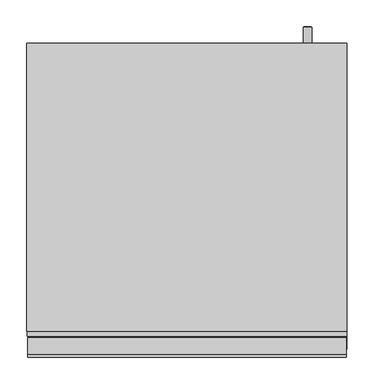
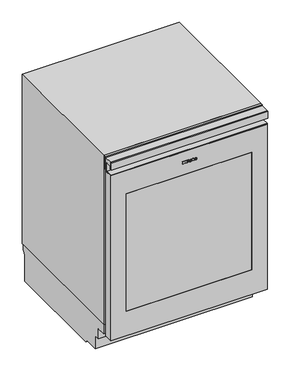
"""IFC4 building model written with IfcOpenShell, lengths in millimetres: proxy geometry, 12731310_GB_KWTUS7074F_OBSW : 39707410_GB_12731310_KWTUS7074F_OBSW."""

from ifc_helpers import new_model, si_unit, point, frame, frame_2d, origin, origin_with_axes, place, context, project, spatial, polyline, circle_curve, ellipse_curve, trimmed, segment, composite_curve, outline, extrude, faceted_brep, source, transform, mapped, element, save
from ifc_brep_helpers import plane_surface, cylinder_surface, revolved_surface, extruded_surface, advanced_brep


def specialty_equipment_66d890f0(model_context):
    return source(origin(), model_context, "Body", "SolidModel", [
        extrude(outline(polyline([(722.339, -25.038), (722.339, -23.949), (716.318, -23.949), (716.318, -25.038), (714.806, -25.038), (714.806, -21.078), (716.318, -21.078), (716.318, -22.158), (720.1401247, -22.158), (714.806, -18.135), (720.2462223, -14.094), (716.318, -14.094), (716.318, -15.201), (714.806, -15.201), (714.806, -8.019), (716.318, -8.019), (716.318, -9.162), (722.339, -9.162), (722.339, -8.019), (723.806, -8.019), (723.806, -13.5), (720.431, -16.128), (723.806, -18.765), (723.806, -25.038), (722.339, -25.038)])), frame((0.0, -1.0, 0.0), z_axis=(0.0, 1.0, 0.0), x_axis=(0.0, 0.0, 1.0)), (0.0, 0.0, 1.0), 1.0),
        extrude(outline(polyline([(722.339, 11.484), (722.339, 12.564), (716.318, 12.564), (716.318, 11.484), (714.806, 11.484), (714.806, 18.783), (716.318, 18.783), (716.318, 17.676), (723.806, 17.676), (723.806, 11.484), (722.339, 11.484)])), frame((0.0, -1.0, 0.0), z_axis=(0.0, 1.0, 0.0), x_axis=(0.0, 0.0, 1.0)), (0.0, 0.0, 1.0), 1.0),
        extrude(outline(polyline([(723.275, -4.878), (721.817, -4.194), (723.239, -1.143), (724.697, -1.818), (723.275, -4.878)])), frame((0.0, -1.0, 0.0), z_axis=(0.0, 1.0, 0.0), x_axis=(0.0, 0.0, 1.0)), (0.0, 0.0, 1.0), 1.0),
        extrude(outline(polyline([(721.619, -7.101), (720.008, -7.101), (720.008, -6.03), (716.318, -6.03), (716.318, -7.101), (714.806, -7.101), (714.806, 0.0), (716.318, 0.0), (716.318, -1.044), (721.619, -1.044), (721.619, -7.101)])), frame((0.0, -1.0, 0.0), z_axis=(0.0, 1.0, 0.0), x_axis=(0.0, 0.0, 1.0)), (0.0, 0.0, 1.0), 1.0),
        advanced_brep(
        [(4.959, -1.0, 716.939), (4.959, -1.0, 717.848), (10.98, -1.0, 717.848), (0.504, -1.0, 717.848), (2.979, -1.0, 714.806), (10.827, -1.0, 716.939), (8.109, -1.0, 716.939), (5.967, -1.0, 715.931), (4.959, -1.0, 719.0), (4.959, -1.0, 719.981), (6.498, -1.0, 719.981), (6.498, -1.0, 719.0), (4.959, 0.0, 716.939), (5.967, 0.0, 715.931), (8.109, 0.0, 716.939), (10.827, 0.0, 716.939), (2.979, 0.0, 714.806), (0.504, 0.0, 717.848), (10.98, 0.0, 717.848), (4.959, 0.0, 717.848), (4.959, 0.0, 719.0), (6.498, 0.0, 719.0), (6.498, 0.0, 719.981), (4.959, 0.0, 719.981)],
        [
            (0, 1),
            (1, 2),
            (2, 3, ellipse_curve(frame((5.742, -1.0, 717.848), z_axis=(0.0, -1.0, 0.0), x_axis=(-1.0, 0.0, 0.0)), 5.238, 4.329)),
            (3, 4, circle_curve(frame((3.9870491, -1.0, 718.154), z_axis=(0.0, -1.0, 0.0), x_axis=(0.0, 0.0, -1.0)), 3.4964649)),
            (4, 5, circle_curve(frame((5.6371428, -1.0, 720.53), z_axis=(0.0, -1.0, 0.0), x_axis=(0.0, 0.0, -1.0)), 6.3110933)),
            (5, 6),
            (6, 7, circle_curve(frame((6.4069412, -1.0, 717.776), z_axis=(0.0, 1.0, 0.0), x_axis=(0.0, 0.0, -1.0)), 1.896727)),
            (7, 0, circle_curve(frame((5.967, -1.0, 716.939), z_axis=(0.0, 1.0, 0.0), x_axis=(0.0, 0.0, -1.0)), 1.008)),
            (8, 9),
            (9, 10, circle_curve(frame((5.7285, -1.0, 719.981), z_axis=(0.0, 1.0, 0.0), x_axis=(0.0, 0.0, -1.0)), 0.7695)),
            (10, 11),
            (11, 8),
            (12, 13, circle_curve(frame((5.967, 0.0, 716.939), z_axis=(0.0, -1.0, 0.0), x_axis=(0.0, 0.0, -1.0)), 1.008)),
            (13, 14, circle_curve(frame((6.4069412, 0.0, 717.776), z_axis=(0.0, -1.0, 0.0), x_axis=(0.0, 0.0, -1.0)), 1.896727)),
            (14, 15),
            (15, 16, circle_curve(frame((5.6371428, 0.0, 720.53), z_axis=(0.0, 1.0, 0.0), x_axis=(0.0, 0.0, -1.0)), 6.3110933)),
            (16, 17, circle_curve(frame((3.9870491, 0.0, 718.154), z_axis=(0.0, 1.0, 0.0), x_axis=(0.0, 0.0, -1.0)), 3.4964649)),
            (17, 18, ellipse_curve(frame((5.742, 0.0, 717.848), z_axis=(0.0, 1.0, 0.0), x_axis=(-1.0, 0.0, 0.0)), 5.238, 4.329)),
            (18, 19),
            (19, 12),
            (20, 21),
            (21, 22),
            (22, 23, circle_curve(frame((5.7285, 0.0, 719.981), z_axis=(0.0, -1.0, 0.0), x_axis=(0.0, 0.0, -1.0)), 0.7695)),
            (23, 20),
            (0, 12),
            (19, 1),
            (18, 2),
            (5, 15),
            (14, 6),
            (17, 3),
            (13, 7),
            (16, 4),
            (8, 20),
            (23, 9),
            (22, 10),
            (21, 11),
        ],
        [
            plane_surface(frame((4.959, -1.0, 717.848), z_axis=(0.0, -1.0, 0.0), x_axis=(0.0, 0.0, 1.0))),
            plane_surface(frame((4.959, 0.0, 717.848), z_axis=(0.0, 1.0, 0.0), x_axis=(0.0, 0.0, -1.0))),
            plane_surface(frame((4.959, -1.0, 716.939), z_axis=(1.0, 0.0, 0.0), x_axis=(0.0, 1.0, 0.0))),
            plane_surface(frame((4.959, -1.0, 717.848), z_axis=(0.0, 0.0, -1.0), x_axis=(0.0, 1.0, 0.0))),
            plane_surface(frame((10.827, -1.0, 716.939), z_axis=(0.0, 0.0, 1.0), x_axis=(0.0, 1.0, 0.0))),
            extruded_surface(trimmed(ellipse_curve(frame((5.742, 1.0, 717.848), z_axis=(0.0, -1.0, 0.0), x_axis=(-1.0, 0.0, 0.0)), 5.238, 4.329), [point((10.98, 1.0, 717.848))], [point((0.504, 1.0, 717.848))], True, "CARTESIAN"), (0.0, -1.0, 0.0), 1.0),
            revolved_surface(polyline([(6.4069412, 0.0, 715.8792729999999), (6.4069412, -1.0, 715.8792729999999)]), (6.4069412, 0.0, 717.776), (0.0, 1.0, 0.0)),
            revolved_surface(polyline([(5.967, 0.0, 715.9309999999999), (5.967, -1.0, 715.9309999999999)]), (5.967, 0.0, 716.939), (0.0, 1.0, 0.0)),
            cylinder_surface(frame((3.9870491, 0.0, 718.154), z_axis=(0.0, -1.0, 0.0), x_axis=(0.0, 0.0, -1.0)), 3.4964649),
            cylinder_surface(frame((5.6371428, 0.0, 720.53), z_axis=(0.0, -1.0, 0.0), x_axis=(0.0, 0.0, -1.0)), 6.3110933),
            plane_surface(frame((4.959, -1.0, 719.0), z_axis=(1.0, 0.0, 0.0), x_axis=(0.0, 1.0, 0.0))),
            revolved_surface(polyline([(5.7285, 0.0, 719.2115), (5.7285, -1.0, 719.2115)]), (5.7285, 0.0, 719.981), (0.0, 1.0, 0.0)),
            plane_surface(frame((6.498, -1.0, 719.981), z_axis=(-1.0, 0.0, 0.0), x_axis=(0.0, 1.0, 0.0))),
            plane_surface(frame((6.498, -1.0, 719.0), z_axis=(0.0, 0.0, 1.0), x_axis=(0.0, 1.0, 0.0))),
        ],
        [
            (0, [[1, 2, 3, 4, 5, 6, 7, 8], [9, 10, 11, 12]]),
            (1, [[13, 14, 15, 16, 17, 18, 19, 20], [21, 22, 23, 24]]),
            (2, [[-1, 25, -20, 26]]),
            (3, [[-2, -26, -19, 27]]),
            (4, [[-6, 28, -15, 29]]),
            (5, [[-3, -27, -18, 30]]),
            (6, [[-7, -29, -14, 31]]),
            (7, [[-8, -31, -13, -25]]),
            (8, [[-4, -30, -17, 32]]),
            (9, [[-5, -32, -16, -28]]),
            (10, [[-9, 33, -24, 34]]),
            (11, [[-10, -34, -23, 35]]),
            (12, [[-11, -35, -22, 36]]),
            (13, [[-12, -36, -21, -33]]),
        ],
    ),
        advanced_brep(
        [(23.742, -1.0, 716.939), (23.742, -1.0, 717.848), (29.763, -1.0, 717.848), (19.287, -1.0, 717.848), (21.762, -1.0, 714.806), (29.61, -1.0, 716.939), (26.892, -1.0, 716.939), (24.75, -1.0, 715.931), (23.742, -1.0, 719.0), (23.742, -1.0, 719.981), (25.281, -1.0, 719.981), (25.281, -1.0, 719.0), (23.742, 0.0, 716.939), (24.75, 0.0, 715.931), (26.892, 0.0, 716.939), (29.61, 0.0, 716.939), (21.762, 0.0, 714.806), (19.287, 0.0, 717.848), (29.763, 0.0, 717.848), (23.742, 0.0, 717.848), (23.742, 0.0, 719.0), (25.281, 0.0, 719.0), (25.281, 0.0, 719.981), (23.742, 0.0, 719.981)],
        [
            (0, 1),
            (1, 2),
            (2, 3, ellipse_curve(frame((24.525, -1.0, 717.848), z_axis=(0.0, -1.0, 0.0), x_axis=(-1.0, 0.0, 0.0)), 5.238, 4.329)),
            (3, 4, circle_curve(frame((22.7700491, -1.0, 718.154), z_axis=(0.0, -1.0, 0.0), x_axis=(0.0, 0.0, -1.0)), 3.4964649)),
            (4, 5, circle_curve(frame((24.4201428, -1.0, 720.53), z_axis=(0.0, -1.0, 0.0), x_axis=(0.0, 0.0, -1.0)), 6.3110933)),
            (5, 6),
            (6, 7, circle_curve(frame((25.1899412, -1.0, 717.776), z_axis=(0.0, 1.0, 0.0), x_axis=(0.0, 0.0, -1.0)), 1.896727)),
            (7, 0, circle_curve(frame((24.75, -1.0, 716.939), z_axis=(0.0, 1.0, 0.0), x_axis=(0.0, 0.0, -1.0)), 1.008)),
            (8, 9),
            (9, 10, circle_curve(frame((24.5115, -1.0, 719.981), z_axis=(0.0, 1.0, 0.0), x_axis=(0.0, 0.0, -1.0)), 0.7695)),
            (10, 11),
            (11, 8),
            (12, 13, circle_curve(frame((24.75, 0.0, 716.939), z_axis=(0.0, -1.0, 0.0), x_axis=(0.0, 0.0, -1.0)), 1.008)),
            (13, 14, circle_curve(frame((25.1899412, 0.0, 717.776), z_axis=(0.0, -1.0, 0.0), x_axis=(0.0, 0.0, -1.0)), 1.896727)),
            (14, 15),
            (15, 16, circle_curve(frame((24.4201428, 0.0, 720.53), z_axis=(0.0, 1.0, 0.0), x_axis=(0.0, 0.0, -1.0)), 6.3110933)),
            (16, 17, circle_curve(frame((22.7700491, 0.0, 718.154), z_axis=(0.0, 1.0, 0.0), x_axis=(0.0, 0.0, -1.0)), 3.4964649)),
            (17, 18, ellipse_curve(frame((24.525, 0.0, 717.848), z_axis=(0.0, 1.0, 0.0), x_axis=(-1.0, 0.0, 0.0)), 5.238, 4.329)),
            (18, 19),
            (19, 12),
            (20, 21),
            (21, 22),
            (22, 23, circle_curve(frame((24.5115, 0.0, 719.981), z_axis=(0.0, -1.0, 0.0), x_axis=(0.0, 0.0, -1.0)), 0.7695)),
            (23, 20),
            (0, 12),
            (19, 1),
            (18, 2),
            (5, 15),
            (14, 6),
            (17, 3),
            (13, 7),
            (16, 4),
            (8, 20),
            (23, 9),
            (22, 10),
            (21, 11),
        ],
        [
            plane_surface(frame((23.742, -1.0, 717.848), z_axis=(0.0, -1.0, 0.0), x_axis=(0.0, 0.0, 1.0))),
            plane_surface(frame((23.742, 0.0, 717.848), z_axis=(0.0, 1.0, 0.0), x_axis=(0.0, 0.0, -1.0))),
            plane_surface(frame((23.742, -1.0, 716.939), z_axis=(1.0, 0.0, 0.0), x_axis=(0.0, 1.0, 0.0))),
            plane_surface(frame((23.742, -1.0, 717.848), z_axis=(0.0, 0.0, -1.0), x_axis=(0.0, 1.0, 0.0))),
            plane_surface(frame((29.61, -1.0, 716.939), z_axis=(0.0, 0.0, 1.0), x_axis=(0.0, 1.0, 0.0))),
            extruded_surface(trimmed(ellipse_curve(frame((24.525, 1.0, 717.848), z_axis=(0.0, -1.0, 0.0), x_axis=(-1.0, 0.0, 0.0)), 5.238, 4.329), [point((29.763, 1.0, 717.848))], [point((19.287, 1.0, 717.848))], True, "CARTESIAN"), (0.0, -1.0, 0.0), 1.0),
            revolved_surface(polyline([(25.1899412, 0.0, 715.8792729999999), (25.1899412, -1.0, 715.8792729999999)]), (25.1899412, 0.0, 717.776), (0.0, 1.0, 0.0)),
            revolved_surface(polyline([(24.75, 0.0, 715.9309999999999), (24.75, -1.0, 715.9309999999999)]), (24.75, 0.0, 716.939), (0.0, 1.0, 0.0)),
            cylinder_surface(frame((22.7700491, 0.0, 718.154), z_axis=(0.0, -1.0, 0.0), x_axis=(0.0, 0.0, -1.0)), 3.4964649),
            cylinder_surface(frame((24.4201428, 0.0, 720.53), z_axis=(0.0, -1.0, 0.0), x_axis=(0.0, 0.0, -1.0)), 6.3110933),
            plane_surface(frame((23.742, -1.0, 719.0), z_axis=(1.0, 0.0, 0.0), x_axis=(0.0, 1.0, 0.0))),
            revolved_surface(polyline([(24.5115, 0.0, 719.2115), (24.5115, -1.0, 719.2115)]), (24.5115, 0.0, 719.981), (0.0, 1.0, 0.0)),
            plane_surface(frame((25.281, -1.0, 719.981), z_axis=(-1.0, 0.0, 0.0), x_axis=(0.0, 1.0, 0.0))),
            plane_surface(frame((25.281, -1.0, 719.0), z_axis=(0.0, 0.0, 1.0), x_axis=(0.0, 1.0, 0.0))),
        ],
        [
            (0, [[1, 2, 3, 4, 5, 6, 7, 8], [9, 10, 11, 12]]),
            (1, [[13, 14, 15, 16, 17, 18, 19, 20], [21, 22, 23, 24]]),
            (2, [[-1, 25, -20, 26]]),
            (3, [[-2, -26, -19, 27]]),
            (4, [[-6, 28, -15, 29]]),
            (5, [[-3, -27, -18, 30]]),
            (6, [[-7, -29, -14, 31]]),
            (7, [[-8, -31, -13, -25]]),
            (8, [[-4, -30, -17, 32]]),
            (9, [[-5, -32, -16, -28]]),
            (10, [[-9, 33, -24, 34]]),
            (11, [[-10, -34, -23, 35]]),
            (12, [[-11, -35, -22, 36]]),
            (13, [[-12, -36, -21, -33]]),
        ],
    ),
        extrude(outline(polyline([(454.1556157, -89.367984), (454.1556157, -88.399984), (448.8036157, -88.399984), (448.8036157, -89.367984), (447.4596157, -89.367984), (447.4596157, -85.847984), (448.8036157, -85.847984), (448.8036157, -86.807984), (452.2067404, -86.807984), (447.4596157, -83.231984), (452.274838, -79.639984), (448.8036157, -79.639984), (448.8036157, -80.623984), (447.4596157, -80.623984), (447.4596157, -74.239984), (448.8036157, -74.239984), (448.8036157, -75.255984), (454.1556157, -75.255984), (454.1556157, -74.239984), (455.4596157, -74.239984), (455.4596157, -79.111984), (452.4596157, -81.447984), (455.4596157, -83.791984), (455.4596157, -89.367984), (454.1556157, -89.367984)])), frame((0.0, 50.0, 0.0), z_axis=(0.0, 1.0, 0.0), x_axis=(0.0, 0.0, 1.0)), (0.0, 0.0, 1.0), 1.0),
        extrude(outline(polyline([(454.1556157, -56.903984), (454.1556157, -55.943984), (448.8036157, -55.943984), (448.8036157, -56.903984), (447.4596157, -56.903984), (447.4596157, -50.415984), (448.8036157, -50.415984), (448.8036157, -51.399984), (455.4596157, -51.399984), (455.4596157, -56.903984), (454.1556157, -56.903984)])), frame((0.0, 50.0, 0.0), z_axis=(0.0, 1.0, 0.0), x_axis=(0.0, 0.0, 1.0)), (0.0, 0.0, 1.0), 1.0),
        extrude(outline(polyline([(454.9876157, -71.447984), (453.6916157, -70.839984), (454.9556157, -68.127984), (456.2516157, -68.727984), (454.9876157, -71.447984)])), frame((0.0, 50.0, 0.0), z_axis=(0.0, 1.0, 0.0), x_axis=(0.0, 0.0, 1.0)), (0.0, 0.0, 1.0), 1.0),
        extrude(outline(polyline([(453.5156157, -73.423984), (452.0836157, -73.423984), (452.0836157, -72.471984), (448.8036157, -72.471984), (448.8036157, -73.423984), (447.4596157, -73.423984), (447.4596157, -67.111984), (448.8036157, -67.111984), (448.8036157, -68.039984), (453.5156157, -68.039984), (453.5156157, -73.423984)])), frame((0.0, 50.0, 0.0), z_axis=(0.0, 1.0, 0.0), x_axis=(0.0, 0.0, 1.0)), (0.0, 0.0, 1.0), 1.0),
        advanced_brep(
        [(-62.703984, 50.0, 449.3556157), (-62.703984, 50.0, 450.1636157), (-57.351984, 50.0, 450.1636157), (-66.663984, 50.0, 450.1636157), (-64.463984, 50.0, 447.4596157), (-57.487984, 50.0, 449.3556157), (-59.903984, 50.0, 449.3556157), (-61.807984, 50.0, 448.4596157), (-62.703984, 50.0, 451.1876157), (-62.703984, 50.0, 452.0596157), (-61.335984, 50.0, 452.0596157), (-61.335984, 50.0, 451.1876157), (-62.703984, 51.0, 449.3556157), (-61.807984, 51.0, 448.4596157), (-59.903984, 51.0, 449.3556157), (-57.487984, 51.0, 449.3556157), (-64.463984, 51.0, 447.4596157), (-66.663984, 51.0, 450.1636157), (-57.351984, 51.0, 450.1636157), (-62.703984, 51.0, 450.1636157), (-62.703984, 51.0, 451.1876157), (-61.335984, 51.0, 451.1876157), (-61.335984, 51.0, 452.0596157), (-62.703984, 51.0, 452.0596157)],
        [
            (0, 1),
            (1, 2),
            (2, 3, ellipse_curve(frame((-62.007984, 50.0, 450.1636157), z_axis=(0.0, -1.0, 0.0), x_axis=(-1.0, 0.0, 0.0)), 4.656, 3.848)),
            (3, 4, circle_curve(frame((-63.5679404, 50.0, 450.4356157), z_axis=(0.0, -1.0, 0.0), x_axis=(0.0, 0.0, -1.0)), 3.1079688)),
            (4, 5, circle_curve(frame((-62.1011904, 50.0, 452.5476157), z_axis=(0.0, -1.0, 0.0), x_axis=(0.0, 0.0, -1.0)), 5.6098607)),
            (5, 6),
            (6, 7, circle_curve(frame((-61.4169252, 50.0, 450.0996157), z_axis=(0.0, 1.0, 0.0), x_axis=(0.0, 0.0, -1.0)), 1.6859795)),
            (7, 0, circle_curve(frame((-61.807984, 50.0, 449.3556157), z_axis=(0.0, 1.0, 0.0), x_axis=(0.0, 0.0, -1.0)), 0.896)),
            (8, 9),
            (9, 10, circle_curve(frame((-62.019984, 50.0, 452.0596157), z_axis=(0.0, 1.0, 0.0), x_axis=(0.0, 0.0, -1.0)), 0.684)),
            (10, 11),
            (11, 8),
            (12, 13, circle_curve(frame((-61.807984, 51.0, 449.3556157), z_axis=(0.0, -1.0, 0.0), x_axis=(0.0, 0.0, -1.0)), 0.896)),
            (13, 14, circle_curve(frame((-61.4169252, 51.0, 450.0996157), z_axis=(0.0, -1.0, 0.0), x_axis=(0.0, 0.0, -1.0)), 1.6859795)),
            (14, 15),
            (15, 16, circle_curve(frame((-62.1011904, 51.0, 452.5476157), z_axis=(0.0, 1.0, 0.0), x_axis=(0.0, 0.0, -1.0)), 5.6098607)),
            (16, 17, circle_curve(frame((-63.5679404, 51.0, 450.4356157), z_axis=(0.0, 1.0, 0.0), x_axis=(0.0, 0.0, -1.0)), 3.1079688)),
            (17, 18, ellipse_curve(frame((-62.007984, 51.0, 450.1636157), z_axis=(0.0, 1.0, 0.0), x_axis=(-1.0, 0.0, 0.0)), 4.656, 3.848)),
            (18, 19),
            (19, 12),
            (20, 21),
            (21, 22),
            (22, 23, circle_curve(frame((-62.019984, 51.0, 452.0596157), z_axis=(0.0, -1.0, 0.0), x_axis=(0.0, 0.0, -1.0)), 0.684)),
            (23, 20),
            (0, 12),
            (19, 1),
            (18, 2),
            (5, 15),
            (14, 6),
            (17, 3),
            (13, 7),
            (16, 4),
            (8, 20),
            (23, 9),
            (22, 10),
            (21, 11),
        ],
        [
            plane_surface(frame((-62.703984, 50.0, 450.1636157), z_axis=(0.0, -1.0, 0.0), x_axis=(0.0, 0.0, 1.0))),
            plane_surface(frame((-62.703984, 51.0, 450.1636157), z_axis=(0.0, 1.0, 0.0), x_axis=(0.0, 0.0, -1.0))),
            plane_surface(frame((-62.703984, 50.0, 449.3556157), z_axis=(1.0, 0.0, 0.0), x_axis=(0.0, 1.0, 0.0))),
            plane_surface(frame((-62.703984, 50.0, 450.1636157), z_axis=(0.0, 0.0, -1.0), x_axis=(0.0, 1.0, 0.0))),
            plane_surface(frame((-57.487984, 50.0, 449.3556157), z_axis=(0.0, 0.0, 1.0), x_axis=(0.0, 1.0, 0.0))),
            extruded_surface(trimmed(ellipse_curve(frame((-62.007984, 52.0, 450.1636157), z_axis=(0.0, -1.0, 0.0), x_axis=(-1.0, 0.0, 0.0)), 4.656, 3.848), [point((-57.351984, 52.0, 450.1636157))], [point((-66.663984, 52.0, 450.1636157))], True, "CARTESIAN"), (0.0, -1.0, 0.0), 1.0),
            revolved_surface(polyline([(-61.4169252, 51.0, 448.41363620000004), (-61.4169252, 50.0, 448.41363620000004)]), (-61.4169252, 51.0, 450.0996157), (0.0, 1.0, 0.0)),
            revolved_surface(polyline([(-61.807984, 51.0, 448.4596157), (-61.807984, 50.0, 448.4596157)]), (-61.807984, 51.0, 449.3556157), (0.0, 1.0, 0.0)),
            cylinder_surface(frame((-63.5679404, 51.0, 450.4356157), z_axis=(0.0, -1.0, 0.0), x_axis=(0.0, 0.0, -1.0)), 3.1079688),
            cylinder_surface(frame((-62.1011904, 51.0, 452.5476157), z_axis=(0.0, -1.0, 0.0), x_axis=(0.0, 0.0, -1.0)), 5.6098607),
            plane_surface(frame((-62.703984, 50.0, 451.1876157), z_axis=(1.0, 0.0, 0.0), x_axis=(0.0, 1.0, 0.0))),
            revolved_surface(polyline([(-62.019984, 51.0, 451.37561569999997), (-62.019984, 50.0, 451.37561569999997)]), (-62.019984, 51.0, 452.0596157), (0.0, 1.0, 0.0)),
            plane_surface(frame((-61.335984, 50.0, 452.0596157), z_axis=(-1.0, 0.0, 0.0), x_axis=(0.0, 1.0, 0.0))),
            plane_surface(frame((-61.335984, 50.0, 451.1876157), z_axis=(0.0, 0.0, 1.0), x_axis=(0.0, 1.0, 0.0))),
        ],
        [
            (0, [[1, 2, 3, 4, 5, 6, 7, 8], [9, 10, 11, 12]]),
            (1, [[13, 14, 15, 16, 17, 18, 19, 20], [21, 22, 23, 24]]),
            (2, [[-1, 25, -20, 26]]),
            (3, [[-2, -26, -19, 27]]),
            (4, [[-6, 28, -15, 29]]),
            (5, [[-3, -27, -18, 30]]),
            (6, [[-7, -29, -14, 31]]),
            (7, [[-8, -31, -13, -25]]),
            (8, [[-4, -30, -17, 32]]),
            (9, [[-5, -32, -16, -28]]),
            (10, [[-9, 33, -24, 34]]),
            (11, [[-10, -34, -23, 35]]),
            (12, [[-11, -35, -22, 36]]),
            (13, [[-12, -36, -21, -33]]),
        ],
    ),
        advanced_brep(
        [(-46.007984, 50.0, 449.3556157), (-46.007984, 50.0, 450.1636157), (-40.655984, 50.0, 450.1636157), (-49.967984, 50.0, 450.1636157), (-47.767984, 50.0, 447.4596157), (-40.791984, 50.0, 449.3556157), (-43.207984, 50.0, 449.3556157), (-45.111984, 50.0, 448.4596157), (-46.007984, 50.0, 451.1876157), (-46.007984, 50.0, 452.0596157), (-44.639984, 50.0, 452.0596157), (-44.639984, 50.0, 451.1876157), (-46.007984, 51.0, 449.3556157), (-45.111984, 51.0, 448.4596157), (-43.207984, 51.0, 449.3556157), (-40.791984, 51.0, 449.3556157), (-47.767984, 51.0, 447.4596157), (-49.967984, 51.0, 450.1636157), (-40.655984, 51.0, 450.1636157), (-46.007984, 51.0, 450.1636157), (-46.007984, 51.0, 451.1876157), (-44.639984, 51.0, 451.1876157), (-44.639984, 51.0, 452.0596157), (-46.007984, 51.0, 452.0596157)],
        [
            (0, 1),
            (1, 2),
            (2, 3, ellipse_curve(frame((-45.311984, 50.0, 450.1636157), z_axis=(0.0, -1.0, 0.0), x_axis=(-1.0, 0.0, 0.0)), 4.656, 3.848)),
            (3, 4, circle_curve(frame((-46.8719404, 50.0, 450.4356157), z_axis=(0.0, -1.0, 0.0), x_axis=(0.0, 0.0, -1.0)), 3.1079688)),
            (4, 5, circle_curve(frame((-45.4051904, 50.0, 452.5476157), z_axis=(0.0, -1.0, 0.0), x_axis=(0.0, 0.0, -1.0)), 5.6098607)),
            (5, 6),
            (6, 7, circle_curve(frame((-44.7209252, 50.0, 450.0996157), z_axis=(0.0, 1.0, 0.0), x_axis=(0.0, 0.0, -1.0)), 1.6859795)),
            (7, 0, circle_curve(frame((-45.111984, 50.0, 449.3556157), z_axis=(0.0, 1.0, 0.0), x_axis=(0.0, 0.0, -1.0)), 0.896)),
            (8, 9),
            (9, 10, circle_curve(frame((-45.323984, 50.0, 452.0596157), z_axis=(0.0, 1.0, 0.0), x_axis=(0.0, 0.0, -1.0)), 0.684)),
            (10, 11),
            (11, 8),
            (12, 13, circle_curve(frame((-45.111984, 51.0, 449.3556157), z_axis=(0.0, -1.0, 0.0), x_axis=(0.0, 0.0, -1.0)), 0.896)),
            (13, 14, circle_curve(frame((-44.7209252, 51.0, 450.0996157), z_axis=(0.0, -1.0, 0.0), x_axis=(0.0, 0.0, -1.0)), 1.6859795)),
            (14, 15),
            (15, 16, circle_curve(frame((-45.4051904, 51.0, 452.5476157), z_axis=(0.0, 1.0, 0.0), x_axis=(0.0, 0.0, -1.0)), 5.6098607)),
            (16, 17, circle_curve(frame((-46.8719404, 51.0, 450.4356157), z_axis=(0.0, 1.0, 0.0), x_axis=(0.0, 0.0, -1.0)), 3.1079688)),
            (17, 18, ellipse_curve(frame((-45.311984, 51.0, 450.1636157), z_axis=(0.0, 1.0, 0.0), x_axis=(-1.0, 0.0, 0.0)), 4.656, 3.848)),
            (18, 19),
            (19, 12),
            (20, 21),
            (21, 22),
            (22, 23, circle_curve(frame((-45.323984, 51.0, 452.0596157), z_axis=(0.0, -1.0, 0.0), x_axis=(0.0, 0.0, -1.0)), 0.684)),
            (23, 20),
            (0, 12),
            (19, 1),
            (18, 2),
            (5, 15),
            (14, 6),
            (17, 3),
            (13, 7),
            (16, 4),
            (8, 20),
            (23, 9),
            (22, 10),
            (21, 11),
        ],
        [
            plane_surface(frame((-46.007984, 50.0, 450.1636157), z_axis=(0.0, -1.0, 0.0), x_axis=(0.0, 0.0, 1.0))),
            plane_surface(frame((-46.007984, 51.0, 450.1636157), z_axis=(0.0, 1.0, 0.0), x_axis=(0.0, 0.0, -1.0))),
            plane_surface(frame((-46.007984, 50.0, 449.3556157), z_axis=(1.0, 0.0, 0.0), x_axis=(0.0, 1.0, 0.0))),
            plane_surface(frame((-46.007984, 50.0, 450.1636157), z_axis=(0.0, 0.0, -1.0), x_axis=(0.0, 1.0, 0.0))),
            plane_surface(frame((-40.791984, 50.0, 449.3556157), z_axis=(0.0, 0.0, 1.0), x_axis=(0.0, 1.0, 0.0))),
            extruded_surface(trimmed(ellipse_curve(frame((-45.311984, 52.0, 450.1636157), z_axis=(0.0, -1.0, 0.0), x_axis=(-1.0, 0.0, 0.0)), 4.656, 3.848), [point((-40.655984, 52.0, 450.1636157))], [point((-49.967984, 52.0, 450.1636157))], True, "CARTESIAN"), (0.0, -1.0, 0.0), 1.0),
            revolved_surface(polyline([(-44.7209252, 51.0, 448.41363620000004), (-44.7209252, 50.0, 448.41363620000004)]), (-44.7209252, 51.0, 450.0996157), (0.0, 1.0, 0.0)),
            revolved_surface(polyline([(-45.111984, 51.0, 448.4596157), (-45.111984, 50.0, 448.4596157)]), (-45.111984, 51.0, 449.3556157), (0.0, 1.0, 0.0)),
            cylinder_surface(frame((-46.8719404, 51.0, 450.4356157), z_axis=(0.0, -1.0, 0.0), x_axis=(0.0, 0.0, -1.0)), 3.1079688),
            cylinder_surface(frame((-45.4051904, 51.0, 452.5476157), z_axis=(0.0, -1.0, 0.0), x_axis=(0.0, 0.0, -1.0)), 5.6098607),
            plane_surface(frame((-46.007984, 50.0, 451.1876157), z_axis=(1.0, 0.0, 0.0), x_axis=(0.0, 1.0, 0.0))),
            revolved_surface(polyline([(-45.323984, 51.0, 451.37561569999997), (-45.323984, 50.0, 451.37561569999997)]), (-45.323984, 51.0, 452.0596157), (0.0, 1.0, 0.0)),
            plane_surface(frame((-44.639984, 50.0, 452.0596157), z_axis=(-1.0, 0.0, 0.0), x_axis=(0.0, 1.0, 0.0))),
            plane_surface(frame((-44.639984, 50.0, 451.1876157), z_axis=(0.0, 0.0, 1.0), x_axis=(0.0, 1.0, 0.0))),
        ],
        [
            (0, [[1, 2, 3, 4, 5, 6, 7, 8], [9, 10, 11, 12]]),
            (1, [[13, 14, 15, 16, 17, 18, 19, 20], [21, 22, 23, 24]]),
            (2, [[-1, 25, -20, 26]]),
            (3, [[-2, -26, -19, 27]]),
            (4, [[-6, 28, -15, 29]]),
            (5, [[-3, -27, -18, 30]]),
            (6, [[-7, -29, -14, 31]]),
            (7, [[-8, -31, -13, -25]]),
            (8, [[-4, -30, -17, 32]]),
            (9, [[-5, -32, -16, -28]]),
            (10, [[-9, 33, -24, 34]]),
            (11, [[-10, -34, -23, 35]]),
            (12, [[-11, -35, -22, 36]]),
            (13, [[-12, -36, -21, -33]]),
        ],
    ),
        extrude(outline(polyline([(238.8, -157.5), (243.5052612, -157.5), (247.5052612, -161.5), (247.5052612, -168.5), (243.5052612, -172.5), (238.8, -172.5), (238.8, -157.5)])), frame((0.0, 54.5000244, 0.0), z_axis=(0.0, 1.0, 0.0), x_axis=(0.0, 0.0, 1.0)), (0.0, 0.0, 1.0), 433.111792),
        extrude(outline(polyline([(238.8, -102.5), (243.5052612, -102.5), (247.5052612, -106.5), (247.5052612, -113.5), (243.5052612, -117.5), (238.8, -117.5), (238.8, -102.5)])), frame((0.0, 54.5000244, 0.0), z_axis=(0.0, 1.0, 0.0), x_axis=(0.0, 0.0, 1.0)), (0.0, 0.0, 1.0), 433.111792),
        extrude(outline(polyline([(238.8, 157.5), (238.8, 172.5), (243.5052612, 172.5), (247.5052612, 168.5), (247.5052612, 161.5), (243.5052612, 157.5), (238.8, 157.5)])), frame((0.0, 54.5000244, 0.0), z_axis=(0.0, 1.0, 0.0), x_axis=(0.0, 0.0, 1.0)), (0.0, 0.0, 1.0), 433.111792),
        extrude(outline(polyline([(238.8, 102.5), (238.8, 117.5), (243.5052612, 117.5), (247.5052612, 113.5), (247.5052612, 106.5), (243.5052612, 102.5), (238.8, 102.5)])), frame((0.0, 54.5000244, 0.0), z_axis=(0.0, 1.0, 0.0), x_axis=(0.0, 0.0, 1.0)), (0.0, 0.0, 1.0), 433.111792),
        extrude(outline(polyline([(238.8, -47.5), (243.5052612, -47.5), (247.5052612, -51.5), (247.5052612, -58.5), (243.5052612, -62.5), (238.8, -62.5), (238.8, -47.5)])), frame((0.0, 54.5000244, 0.0), z_axis=(0.0, 1.0, 0.0), x_axis=(0.0, 0.0, 1.0)), (0.0, 0.0, 1.0), 433.111792),
        extrude(outline(polyline([(238.8, 47.5), (238.8, 62.5), (243.5052612, 62.5), (247.5052612, 58.5), (247.5052612, 51.5), (243.5052612, 47.5), (238.8, 47.5)])), frame((0.0, 54.5000244, 0.0), z_axis=(0.0, 1.0, 0.0), x_axis=(0.0, 0.0, 1.0)), (0.0, 0.0, 1.0), 433.111792),
        extrude(outline(polyline([(238.8, 7.5), (243.5052612, 7.5), (247.5052612, 3.5), (247.5052612, -3.5), (243.5052612, -7.5), (238.8, -7.5), (238.8, 7.5)])), frame((0.0, 54.5000244, 0.0), z_axis=(0.0, 1.0, 0.0), x_axis=(0.0, 0.0, 1.0)), (0.0, 0.0, 1.0), 433.111792),
        extrude(outline(polyline([(238.5, 51.0000244), (-238.5, 51.0000244), (-238.5, 54.5000244), (238.5, 54.5000244), (238.5, 51.0000244)])), frame((0.0, 0.0, 146.0), z_axis=(0.0, 0.0, 1.0), x_axis=(1.0, 0.0, 0.0)), (0.0, 0.0, 1.0), 27.5),
        extrude(outline(polyline([(209.0, -226.9226475), (209.0, -238.5), (141.0206134, -238.5), (141.0206134, -216.8069153), (191.4790485, -216.8069153), (209.0, -226.9226475)])), frame((0.0, 54.5000244, 0.0), z_axis=(0.0, 1.0, 0.0), x_axis=(0.0, 0.0, 1.0)), (0.0, 0.0, 1.0), 308.1981801),
        extrude(outline(polyline([(209.0, 226.9226475), (191.4790485, 216.8069153), (141.0206134, 216.8069153), (141.0206134, 238.5), (209.0, 238.5), (209.0, 226.9226475)])), frame((0.0, 54.5000244, 0.0), z_axis=(0.0, 1.0, 0.0), x_axis=(0.0, 0.0, 1.0)), (0.0, 0.0, 1.0), 308.1981801),
        extrude(outline(polyline([(238.5, 51.0000244), (-238.5, 51.0000244), (-238.5, 54.5000244), (238.5, 54.5000244), (238.5, 51.0000244)])), frame((0.0, 0.0, 324.0), z_axis=(0.0, 0.0, 1.0), x_axis=(1.0, 0.0, 0.0)), (0.0, 0.0, 1.0), 27.5),
        extrude(outline(polyline([(618.2947388, -160.4764937), (623.0, -160.4764937), (627.0, -164.4764937), (627.0, -171.4764937), (623.0, -175.4764937), (618.2947388, -175.4764937), (618.2947388, -160.4764937)])), frame((0.0, 54.5000244, 0.0), z_axis=(0.0, 1.0, 0.0), x_axis=(0.0, 0.0, 1.0)), (0.0, 0.0, 1.0), 433.111792),
        extrude(outline(polyline([(618.2947388, -134.5453754), (623.0, -134.5453754), (627.0, -138.5453754), (627.0, -145.5453754), (623.0, -149.5453754), (618.2947388, -149.5453754), (618.2947388, -134.5453754)])), frame((0.0, 54.5000244, 0.0), z_axis=(0.0, 1.0, 0.0), x_axis=(0.0, 0.0, 1.0)), (0.0, 0.0, 1.0), 433.111792),
        extrude(outline(polyline([(618.2947388, -82.9166641), (623.0, -82.9166641), (627.0, -86.9166641), (627.0, -93.9166641), (623.0, -97.9166641), (618.2947388, -97.9166641), (618.2947388, -82.9166641)])), frame((0.0, 54.5000244, 0.0), z_axis=(0.0, 1.0, 0.0), x_axis=(0.0, 0.0, 1.0)), (0.0, 0.0, 1.0), 433.111792),
        extrude(outline(polyline([(618.2947388, -56.9855458), (623.0, -56.9855458), (627.0, -60.9855458), (627.0, -67.9855458), (623.0, -71.9855458), (618.2947388, -71.9855458), (618.2947388, -56.9855458)])), frame((0.0, 54.5000244, 0.0), z_axis=(0.0, 1.0, 0.0), x_axis=(0.0, 0.0, 1.0)), (0.0, 0.0, 1.0), 433.111792),
        extrude(outline(polyline([(618.2947388, 160.4764937), (618.2947388, 175.4764937), (623.0, 175.4764937), (627.0, 171.4764937), (627.0, 164.4764937), (623.0, 160.4764937), (618.2947388, 160.4764937)])), frame((0.0, 54.5000244, 0.0), z_axis=(0.0, 1.0, 0.0), x_axis=(0.0, 0.0, 1.0)), (0.0, 0.0, 1.0), 433.111792),
        extrude(outline(polyline([(618.2947388, 134.5453754), (618.2947388, 149.5453754), (623.0, 149.5453754), (627.0, 145.5453754), (627.0, 138.5453754), (623.0, 134.5453754), (618.2947388, 134.5453754)])), frame((0.0, 54.5000244, 0.0), z_axis=(0.0, 1.0, 0.0), x_axis=(0.0, 0.0, 1.0)), (0.0, 0.0, 1.0), 433.111792),
        extrude(outline(polyline([(618.2947388, 82.9166641), (618.2947388, 97.9166641), (623.0, 97.9166641), (627.0, 93.9166641), (627.0, 86.9166641), (623.0, 82.9166641), (618.2947388, 82.9166641)])), frame((0.0, 54.5000244, 0.0), z_axis=(0.0, 1.0, 0.0), x_axis=(0.0, 0.0, 1.0)), (0.0, 0.0, 1.0), 433.111792),
        extrude(outline(polyline([(618.2947388, 56.9855458), (618.2947388, 71.9855458), (623.0, 71.9855458), (627.0, 67.9855458), (627.0, 60.9855458), (623.0, 56.9855458), (618.2947388, 56.9855458)])), frame((0.0, 54.5000244, 0.0), z_axis=(0.0, 1.0, 0.0), x_axis=(0.0, 0.0, 1.0)), (0.0, 0.0, 1.0), 433.111792),
        extrude(outline(polyline([(618.2947388, -5.416666), (623.0, -5.416666), (627.0, -9.416666), (627.0, -16.416666), (623.0, -20.416666), (618.2947388, -20.416666), (618.2947388, -5.416666)])), frame((0.0, 54.5000244, 0.0), z_axis=(0.0, 1.0, 0.0), x_axis=(0.0, 0.0, 1.0)), (0.0, 0.0, 1.0), 433.111792),
        extrude(outline(polyline([(618.2947388, 20.5144523), (623.0, 20.5144523), (627.0, 16.5144523), (627.0, 9.5144523), (623.0, 5.5144523), (618.2947388, 5.5144523), (618.2947388, 20.5144523)])), frame((0.0, 54.5000244, 0.0), z_axis=(0.0, 1.0, 0.0), x_axis=(0.0, 0.0, 1.0)), (0.0, 0.0, 1.0), 433.111792),
        extrude(outline(polyline([(328.2947388, -160.4166718), (333.0, -160.4166718), (337.0, -164.4166718), (337.0, -171.4166718), (333.0, -175.4166718), (328.2947388, -175.4166718), (328.2947388, -160.4166718)])), frame((0.0, 54.5000244, 0.0), z_axis=(0.0, 1.0, 0.0), x_axis=(0.0, 0.0, 1.0)), (0.0, 0.0, 1.0), 433.111792),
        extrude(outline(polyline([(328.2947388, -134.4855535), (333.0, -134.4855535), (337.0, -138.4855535), (337.0, -145.4855535), (333.0, -149.4855535), (328.2947388, -149.4855535), (328.2947388, -134.4855535)])), frame((0.0, 54.5000244, 0.0), z_axis=(0.0, 1.0, 0.0), x_axis=(0.0, 0.0, 1.0)), (0.0, 0.0, 1.0), 433.111792),
        extrude(outline(polyline([(328.2947388, -82.8568422), (333.0, -82.8568422), (337.0, -86.8568422), (337.0, -93.8568422), (333.0, -97.8568422), (328.2947388, -97.8568422), (328.2947388, -82.8568422)])), frame((0.0, 54.5000244, 0.0), z_axis=(0.0, 1.0, 0.0), x_axis=(0.0, 0.0, 1.0)), (0.0, 0.0, 1.0), 433.111792),
        extrude(outline(polyline([(328.2947388, -56.9257239), (333.0, -56.9257239), (337.0, -60.9257239), (337.0, -67.9257239), (333.0, -71.9257239), (328.2947388, -71.9257239), (328.2947388, -56.9257239)])), frame((0.0, 54.5000244, 0.0), z_axis=(0.0, 1.0, 0.0), x_axis=(0.0, 0.0, 1.0)), (0.0, 0.0, 1.0), 433.111792),
        extrude(outline(polyline([(328.2947388, 160.5363156), (328.2947388, 175.5363156), (333.0, 175.5363156), (337.0, 171.5363156), (337.0, 164.5363156), (333.0, 160.5363156), (328.2947388, 160.5363156)])), frame((0.0, 54.5000244, 0.0), z_axis=(0.0, 1.0, 0.0), x_axis=(0.0, 0.0, 1.0)), (0.0, 0.0, 1.0), 433.111792),
        extrude(outline(polyline([(328.2947388, 134.6051973), (328.2947388, 149.6051973), (333.0, 149.6051973), (337.0, 145.6051973), (337.0, 138.6051973), (333.0, 134.6051973), (328.2947388, 134.6051973)])), frame((0.0, 54.5000244, 0.0), z_axis=(0.0, 1.0, 0.0), x_axis=(0.0, 0.0, 1.0)), (0.0, 0.0, 1.0), 433.111792),
        extrude(outline(polyline([(328.2947388, 82.976486), (328.2947388, 97.976486), (333.0, 97.976486), (337.0, 93.976486), (337.0, 86.976486), (333.0, 82.976486), (328.2947388, 82.976486)])), frame((0.0, 54.5000244, 0.0), z_axis=(0.0, 1.0, 0.0), x_axis=(0.0, 0.0, 1.0)), (0.0, 0.0, 1.0), 433.111792),
        extrude(outline(polyline([(328.2947388, 57.0453677), (328.2947388, 72.0453677), (333.0, 72.0453677), (337.0, 68.0453677), (337.0, 61.0453677), (333.0, 57.0453677), (328.2947388, 57.0453677)])), frame((0.0, 54.5000244, 0.0), z_axis=(0.0, 1.0, 0.0), x_axis=(0.0, 0.0, 1.0)), (0.0, 0.0, 1.0), 433.111792),
        extrude(outline(polyline([(328.2947388, -5.3568441), (333.0, -5.3568441), (337.0, -9.3568441), (337.0, -16.3568441), (333.0, -20.3568441), (328.2947388, -20.3568441), (328.2947388, -5.3568441)])), frame((0.0, 54.5000244, 0.0), z_axis=(0.0, 1.0, 0.0), x_axis=(0.0, 0.0, 1.0)), (0.0, 0.0, 1.0), 433.111792),
        extrude(outline(polyline([(328.2947388, 20.5742742), (333.0, 20.5742742), (337.0, 16.5742742), (337.0, 9.5742742), (333.0, 5.5742742), (328.2947388, 5.5742742), (328.2947388, 20.5742742)])), frame((0.0, 54.5000244, 0.0), z_axis=(0.0, 1.0, 0.0), x_axis=(0.0, 0.0, 1.0)), (0.0, 0.0, 1.0), 433.111792),
        extrude(outline(polyline([(238.5, 487.6118164), (-238.5, 487.6118164), (-238.5, 491.1118408), (238.5, 491.1118408), (238.5, 487.6118164)])), frame((0.0, 0.0, 235.0), z_axis=(0.0, 0.0, 1.0), x_axis=(1.0, 0.0, 0.0)), (0.0, 0.0, 1.0), 27.5),
        extrude(outline(polyline([(238.5, 51.0000244), (-238.5, 51.0000244), (-238.5, 54.5000244), (238.5, 54.5000244), (238.5, 51.0000244)])), frame((0.0, 0.0, 614.0), z_axis=(0.0, 0.0, 1.0), x_axis=(1.0, 0.0, 0.0)), (0.0, 0.0, 1.0), 27.5),
        extrude(outline(polyline([(238.5, 51.0000244), (-238.5, 51.0000244), (-238.5, 54.5000244), (238.5, 54.5000244), (238.5, 51.0000244)])), frame((0.0, 0.0, 235.0), z_axis=(0.0, 0.0, 1.0), x_axis=(1.0, 0.0, 0.0)), (0.0, 0.0, 1.0), 27.5),
        extrude(outline(polyline([(238.5, 487.6118164), (-238.5, 487.6118164), (-238.5, 491.1118408), (238.5, 491.1118408), (238.5, 487.6118164)])), frame((0.0, 0.0, 324.0), z_axis=(0.0, 0.0, 1.0), x_axis=(1.0, 0.0, 0.0)), (0.0, 0.0, 1.0), 27.5),
        extrude(outline(polyline([(238.5, 487.6118164), (-238.5, 487.6118164), (-238.5, 491.1118408), (238.5, 491.1118408), (238.5, 487.6118164)])), frame((0.0, 0.0, 614.0), z_axis=(0.0, 0.0, 1.0), x_axis=(1.0, 0.0, 0.0)), (0.0, 0.0, 1.0), 27.5),
        extrude(outline(polyline([(130.5000244, 149.7947388), (115.5000244, 149.7947388), (115.5000244, 154.5), (119.5000244, 158.5), (126.5000244, 158.5), (130.5000244, 154.5), (130.5000244, 149.7947388)])), frame((-216.555896, 0.0, 0.0), z_axis=(1.0, 0.0, 0.0), x_axis=(0.0, 1.0, 0.0)), (0.0, 0.0, 1.0), 433.111792),
        extrude(outline(polyline([(192.5000244, 149.7947388), (177.5000244, 149.7947388), (177.5000244, 154.5), (181.5000244, 158.5), (188.5000244, 158.5), (192.5000244, 154.5), (192.5000244, 149.7947388)])), frame((-216.555896, 0.0, 0.0), z_axis=(1.0, 0.0, 0.0), x_axis=(0.0, 1.0, 0.0)), (0.0, 0.0, 1.0), 433.111792),
        extrude(outline(polyline([(254.5000244, 149.7947388), (239.5000244, 149.7947388), (239.5000244, 154.5), (243.5000244, 158.5), (250.5000244, 158.5), (254.5000244, 154.5), (254.5000244, 149.7947388)])), frame((-216.555896, 0.0, 0.0), z_axis=(1.0, 0.0, 0.0), x_axis=(0.0, 1.0, 0.0)), (0.0, 0.0, 1.0), 433.111792),
        extrude(outline(polyline([(301.5000244, 149.7947388), (301.5000244, 154.5), (305.5000244, 158.5), (312.5000244, 158.5), (316.5000244, 154.5), (316.5000244, 149.7947388), (301.5000244, 149.7947388)])), frame((-216.555896, 0.0, 0.0), z_axis=(1.0, 0.0, 0.0), x_axis=(0.0, 1.0, 0.0)), (0.0, 0.0, 1.0), 433.111792),
        faceted_brep([(250.0, 48.6868019, 474.5), (-250.0, 48.6868019, 474.5), (-250.0, 48.6868019, 421.0838574), (250.0, 48.6868019, 421.0838574), (24.4663125, 48.6868019, 431.9573822), (-24.4663125, 48.6868019, 431.9573822), (-24.4663125, 48.6868019, 468.3698491), (24.4663125, 48.6868019, 468.3698491), (250.0, 487.6118164, 474.5), (250.0, 487.6118164, 421.0838574), (-250.0, 487.6118164, 421.0838574), (-250.0, 487.6118164, 474.5), (24.4663125, 188.5000244, 431.9573822), (24.4663125, 188.5000244, 468.3698491), (-24.4663125, 188.5000244, 468.3698491), (-24.4663125, 188.5000244, 431.9573822)], [[[0, 1, 2, 3], [4, 5, 6, 7]], [[8, 9, 10, 11]], [[1, 0, 8, 11]], [[2, 1, 11, 10]], [[3, 2, 10, 9]], [[0, 3, 9, 8]], [[12, 13, 14, 15]], [[12, 15, 5, 4]], [[15, 14, 6, 5]], [[14, 13, 7, 6]], [[13, 12, 4, 7]]]),
        extrude(outline(polyline([(24.4663125, 48.6868019), (-24.4663125, 48.6868019), (-24.4663125, 54.5000244), (24.4663125, 54.5000244), (24.4663125, 48.6868019)])), frame((0.0, 0.0, 431.9573822), z_axis=(0.0, 0.0, 1.0), x_axis=(1.0, 0.0, 0.0)), (0.0, 0.0, 1.0), 36.4124668),
        extrude(outline(polyline([(250.0, 48.6868019), (-250.0, 48.6868019), (-250.0, 487.6118164), (250.0, 487.6118164), (250.0, 48.6868019)])), frame((0.0, 0.0, 474.5), z_axis=(0.0, 0.0, 1.0), x_axis=(1.0, 0.0, 0.0)), (0.0, 0.0, 1.0), 12.0),
        extrude(outline(polyline([(238.5, 54.5000244), (219.7422474, 54.5000244), (219.7422474, 487.6118164), (238.5, 487.6118164), (238.5, 54.5000244)])), frame((0.0, 0.0, 324.0), z_axis=(0.0, 0.0, 1.0), x_axis=(1.0, 0.0, 0.0)), (0.0, 0.0, 1.0), 27.5),
        extrude(outline(polyline([(-219.7422474, 54.5000244), (-238.5, 54.5000244), (-238.5, 487.6118164), (-219.7422474, 487.6118164), (-219.7422474, 54.5000244)])), frame((0.0, 0.0, 324.0), z_axis=(0.0, 0.0, 1.0), x_axis=(1.0, 0.0, 0.0)), (0.0, 0.0, 1.0), 27.5),
        extrude(outline(polyline([(-219.7422474, 54.5000244), (-238.5, 54.5000244), (-238.5, 487.6118164), (-219.7422474, 487.6118164), (-219.7422474, 54.5000244)])), frame((0.0, 0.0, 235.0), z_axis=(0.0, 0.0, 1.0), x_axis=(1.0, 0.0, 0.0)), (0.0, 0.0, 1.0), 27.5),
        extrude(outline(polyline([(238.5, 54.5000244), (219.7422474, 54.5000244), (219.7422474, 487.6118164), (238.5, 487.6118164), (238.5, 54.5000244)])), frame((0.0, 0.0, 614.0), z_axis=(0.0, 0.0, 1.0), x_axis=(1.0, 0.0, 0.0)), (0.0, 0.0, 1.0), 27.5),
        extrude(outline(polyline([(-219.7422474, 54.5000244), (-238.5, 54.5000244), (-238.5, 487.6118164), (-219.7422474, 487.6118164), (-219.7422474, 54.5000244)])), frame((0.0, 0.0, 614.0), z_axis=(0.0, 0.0, 1.0), x_axis=(1.0, 0.0, 0.0)), (0.0, 0.0, 1.0), 27.5),
        extrude(outline(polyline([(238.5, 54.5000244), (219.7422474, 54.5000244), (219.7422474, 487.6118164), (238.5, 487.6118164), (238.5, 54.5000244)])), frame((0.0, 0.0, 235.0), z_axis=(0.0, 0.0, 1.0), x_axis=(1.0, 0.0, 0.0)), (0.0, 0.0, 1.0), 27.5),
        extrude(outline(polyline([(298.0, 34.0937347), (-298.0, 34.0937347), (-298.0, 44.0), (298.0, 44.0), (298.0, 34.0937347)])), frame((0.0, 0.0, 768.7051238), z_axis=(0.0, 0.0, 1.0), x_axis=(1.0, 0.0, 0.0)), (0.0, 0.0, 1.0), 48.9938508),
        faceted_brep([(-298.5, 573.5, 137.8999939), (-298.5, 573.5, 117.6051112), (-298.5, 561.0, 105.1051112), (-298.5, 561.0, 0.0), (-298.5, 161.2567793, 0.0), (-298.5, 152.9391747, 8.3176046), (-298.5, 100.0, 8.3176046), (-298.5, 100.0, 60.7725754), (-298.5, 79.0216446, 60.7725754), (-298.5, 79.0216446, 101.8184894), (-298.5, 44.0, 101.8184894), (-298.5, 44.0, 137.8999939), (298.5, 573.5, 137.8999939), (298.5, 44.0, 137.8999939), (298.5, 44.0, 101.8184894), (298.5, 79.0216446, 101.8184894), (298.5, 79.0216446, 60.7725754), (298.5, 100.0, 60.7725754), (298.5, 100.0, 8.3176046), (298.5, 152.9391747, 8.3176046), (298.5, 161.2567793, 0.0), (298.5, 561.0, 0.0), (298.5, 561.0, 105.1051112), (298.5, 573.5, 117.6051112), (296.7000122, 487.2596389, 0.0), (256.5957336, 487.2596389, 0.0), (256.5957336, 422.5975098, 0.0), (296.7000122, 422.5975098, 0.0), (-296.7000122, 487.2596389, 0.0), (-296.7000122, 422.5975098, 0.0), (-256.5957336, 422.5975098, 0.0), (-256.5957336, 487.2596389, 0.0), (296.7000122, 487.2596389, 8.7371401), (296.7000122, 422.5975098, 8.7371401), (256.5957336, 422.5975098, 8.7371401), (256.5957336, 487.2596389, 8.7371401), (-296.7000122, 487.2596389, 8.7371401), (-256.5957336, 487.2596389, 8.7371401), (-256.5957336, 422.5975098, 8.7371401), (-296.7000122, 422.5975098, 8.7371401)], [[[0, 1, 2, 3, 4, 5, 6, 7, 8, 9, 10, 11]], [[12, 13, 14, 15, 16, 17, 18, 19, 20, 21, 22, 23]], [[0, 11, 13, 12]], [[11, 10, 14, 13]], [[10, 9, 15, 14]], [[9, 8, 16, 15]], [[8, 7, 17, 16]], [[7, 6, 18, 17]], [[6, 5, 19, 18]], [[5, 4, 20, 19]], [[4, 3, 21, 20], [24, 25, 26, 27], [28, 29, 30, 31]], [[3, 2, 22, 21]], [[2, 1, 23, 22]], [[1, 0, 12, 23]], [[32, 33, 34, 35]], [[36, 37, 38, 39]], [[32, 35, 25, 24]], [[35, 34, 26, 25]], [[34, 33, 27, 26]], [[33, 32, 24, 27]], [[36, 39, 29, 28]], [[39, 38, 30, 29]], [[38, 37, 31, 30]], [[37, 36, 28, 31]]]),
        faceted_brep([(298.5, 44.0, 819.0), (298.5, 44.0, 137.8999939), (298.5, 579.6, 137.8999939), (298.5, 579.6, 819.0), (-298.5, 44.0, 819.0), (-298.5, 579.6, 819.0), (-298.5, 579.6, 137.8999939), (-298.5, 44.0, 137.8999939), (250.0, 44.0, 719.0), (250.0, 44.0, 150.0), (-250.0, 44.0, 150.0), (-250.0, 44.0, 719.0), (250.0, 534.2638012, 150.0), (250.0, 534.2638012, 719.0), (-250.0, 534.2638012, 719.0), (-250.0, 534.2638012, 150.0)], [[[0, 1, 2, 3]], [[4, 5, 6, 7]], [[1, 0, 4, 7], [8, 9, 10, 11]], [[2, 1, 7, 6]], [[3, 2, 6, 5]], [[0, 3, 5, 4]], [[12, 13, 14, 15]], [[13, 12, 9, 8]], [[14, 13, 8, 11]], [[15, 14, 11, 10]], [[12, 15, 10, 9]]]),
        extrude(outline(polyline([(250.0, 534.2638012), (250.0, 362.7), (-250.0, 362.7), (-250.0, 534.2638012), (250.0, 534.2638012)])), frame((0.0, 0.0, 150.0), z_axis=(0.0, 0.0, 1.0), x_axis=(1.0, 0.0, 0.0)), (0.0, 0.0, 1.0), 71.8999939),
        extrude(outline(composite_curve([segment(trimmed(circle_curve(frame_2d((-270.8532135, 136.0)), 15.7049948), [point((-286.5582083, 136.0))], [point((-255.1482187, 136.0))], False, "CARTESIAN"), True, "CONTINUOUS"), segment(trimmed(circle_curve(frame_2d((-270.8532135, 136.0)), 15.7049948), [point((-255.1482187, 136.0))], [point((-286.5582083, 136.0))], False, "CARTESIAN"), True, "CONTINUOUS")], self_intersect=False)), origin_with_axes(), (0.0, 0.0, 1.0), 8.3176046),
        extrude(outline(composite_curve([segment(trimmed(circle_curve(frame_2d((270.8532135, 136.0)), 15.7049948), [point((286.5582083, 136.0))], [point((255.1482187, 136.0))], False, "CARTESIAN"), True, "CONTINUOUS"), segment(trimmed(circle_curve(frame_2d((270.8532135, 136.0)), 15.7049948), [point((255.1482187, 136.0))], [point((286.5582083, 136.0))], False, "CARTESIAN"), True, "CONTINUOUS")], self_intersect=False)), origin_with_axes(), (0.0, 0.0, 1.0), 8.3176046),
        extrude(outline(composite_curve([segment(trimmed(circle_curve(frame_2d((-275.822369, 461.1)), 16.0), [point((-291.822369, 461.1))], [point((-259.822369, 461.1))], False, "CARTESIAN"), True, "CONTINUOUS"), segment(trimmed(circle_curve(frame_2d((-275.822369, 461.1)), 16.0), [point((-259.822369, 461.1))], [point((-291.822369, 461.1))], False, "CARTESIAN"), True, "CONTINUOUS")], self_intersect=False)), origin_with_axes(), (0.0, 0.0, 1.0), 8.3176046),
        extrude(outline(composite_curve([segment(trimmed(circle_curve(frame_2d((275.822369, 461.1)), 16.0), [point((259.822369, 461.1))], [point((291.822369, 461.1))], False, "CARTESIAN"), True, "CONTINUOUS"), segment(trimmed(circle_curve(frame_2d((275.822369, 461.1)), 16.0), [point((291.822369, 461.1))], [point((259.822369, 461.1))], False, "CARTESIAN"), True, "CONTINUOUS")], self_intersect=False)), origin_with_axes(), (0.0, 0.0, 1.0), 8.3176046),
        extrude(outline(composite_curve([segment(trimmed(circle_curve(frame_2d((144.2460785, 224.8152695)), 8.0), [point((144.2460785, 216.8152695))], [point((144.2460785, 232.8152695))], False, "CARTESIAN"), True, "CONTINUOUS"), segment(trimmed(circle_curve(frame_2d((144.2460785, 224.8152695)), 8.0), [point((144.2460785, 232.8152695))], [point((144.2460785, 216.8152695))], False, "CARTESIAN"), True, "CONTINUOUS")], self_intersect=False)), frame((0.0, 579.6, 0.0), z_axis=(0.0, 1.0, 0.0), x_axis=(0.0, 0.0, 1.0)), (0.0, 0.0, 1.0), 30.0),
        extrude(outline(polyline([(140.2460785, 230.7170777), (148.2825833, 230.7170777), (148.2825833, 224.9408399), (147.2780202, 224.9408399), (147.2780202, 229.7125146), (144.8921828, 229.7125146), (144.8921828, 225.1919806), (143.8876197, 225.1919806), (143.8876197, 229.7125146), (141.2506416, 229.7125146), (141.2506416, 224.8152695), (140.2460785, 224.8152695), (140.2460785, 230.7170777)])), frame((0.0, 609.6, 0.0), z_axis=(0.0, 1.0, 0.0), x_axis=(0.0, 0.0, 1.0)), (0.0, 0.0, 1.0), 1.0),
        extrude(outline(polyline([(140.2460785, 223.3084248), (148.2825833, 223.3084248), (148.2825833, 222.3038617), (141.2506416, 222.3038617), (141.2506416, 218.2856093), (140.2460785, 218.2856093), (140.2460785, 223.3084248)])), frame((0.0, 609.6, 0.0), z_axis=(0.0, 1.0, 0.0), x_axis=(0.0, 0.0, 1.0)), (0.0, 0.0, 1.0), 1.0),
        faceted_brep([(297.0, 0.0, 762.0), (-297.0, 0.0, 762.0), (-297.0, 0.0, 100.0), (297.0, 0.0, 100.0), (-238.0, 0.0, 670.0), (238.0, 0.0, 670.0), (238.0, 0.0, 198.0), (-238.0, 0.0, 198.0), (297.0, 32.0, 100.0), (-297.0, 32.0, 100.0), (-297.0, 32.0, 762.0), (297.0, 32.0, 762.0), (297.0, 32.0, 145.5520399), (190.2289267, 32.0, 145.5520399), (190.2289267, 32.0, 100.9715583), (297.0, 32.0, 100.9715583), (238.0, 32.0, 670.0), (-238.0, 32.0, 670.0), (-238.0, 32.0, 198.0), (238.0, 32.0, 198.0), (297.0, 10.6130013, 100.9715583), (297.0, 10.6130013, 145.5520399), (190.2289267, 10.6130013, 145.5520399), (190.2289267, 10.6130013, 100.9715583)], [[[0, 1, 2, 3], [4, 5, 6, 7]], [[8, 9, 10, 11, 12, 13, 14, 15], [16, 17, 18, 19]], [[1, 0, 11, 10]], [[2, 1, 10, 9]], [[3, 2, 9, 8]], [[0, 3, 8, 15, 20, 21, 12, 11]], [[16, 5, 4, 17]], [[17, 4, 7, 18]], [[18, 7, 6, 19]], [[5, 16, 19, 6]], [[21, 22, 13, 12]], [[14, 23, 20, 15]], [[23, 22, 21, 20]], [[22, 23, 14, 13]]]),
        extrude(outline(polyline([(764.5, 285.0), (764.5, -285.0), (148.5030441, -285.0), (148.5030441, 285.0), (764.5, 285.0)]), holes=[polyline([(670.0, -238.0), (670.0, 238.0), (198.0, 238.0), (198.0, -238.0), (670.0, -238.0)])]), frame((0.0, 32.0, 0.0), z_axis=(0.0, 1.0, 0.0), x_axis=(0.0, 0.0, 1.0)), (0.0, 0.0, 1.0), 12.0),
        extrude(outline(polyline([(297.0, 0.0), (297.0, -4.3999998), (-297.0, -4.3999998), (-297.0, 0.0), (297.0, 0.0)])), frame((0.0, 0.0, 787.8718872), z_axis=(0.0, 0.0, 1.0), x_axis=(1.0, 0.0, 0.0)), (0.0, 0.0, 1.0), 28.4282238),
        extrude(outline(polyline([(31.449995, 816.3006898), (31.449995, 762.0), (0.0, 762.0), (0.0, 764.3706666), (25.2610212, 764.3706666), (25.2610212, 799.0085449), (3.0130013, 799.0085449), (3.0130013, 787.161485), (0.0, 787.161485), (0.0, 816.3006898), (31.449995, 816.3006898)])), frame((-297.0, 0.0, 0.0), z_axis=(1.0, 0.0, 0.0), x_axis=(0.0, 1.0, 0.0)), (0.0, 0.0, 1.0), 594.0),
        extrude(outline(polyline([(238.0, 0.0), (-238.0, 0.0), (-238.0, 32.0), (238.0, 32.0), (238.0, 0.0)])), frame((0.0, 0.0, 197.9069346), z_axis=(0.0, 0.0, 1.0), x_axis=(1.0, 0.0, 0.0)), (0.0, 0.0, 1.0), 472.0930654),
        extrude(outline(polyline([(298.5, 10.6130013), (190.2289267, 10.6130013), (190.2289267, 44.0), (298.5, 44.0), (298.5, 10.6130013)])), frame((0.0, 0.0, 100.0), z_axis=(0.0, 0.0, 1.0), x_axis=(1.0, 0.0, 0.0)), (0.0, 0.0, 1.0), 41.0),
    ])


if __name__ == "__main__":
    model = new_model("IFC4")
    model_context = context("Model", 3, world=origin())
    ifc_project = project(units=[si_unit("LENGTHUNIT", "METRE", prefix="MILLI")], contexts=[model_context])
    site = spatial("IfcSite", under=ifc_project)
    building = spatial("IfcBuilding", under=site)
    placement = place(None, origin())
    specialty_equipment_shape = specialty_equipment_66d890f0(model_context)
    element("IfcBuildingElementProxy", 1, Name="12731310_GB_KWTUS7074F_OBSW : 39707410_GB_12731310_KWTUS7074F_OBSW", ObjectType="12731310_GB_KWTUS7074F_OBSW : 39707410_GB_12731310_KWTUS7074F_OBSW", at=placement, inside=building, context=model_context, shape_type="MappedRepresentation", body=[
        mapped(specialty_equipment_shape, transform((0.0, 0.0, 0.0), x_axis=(1.0, 0.0, 0.0), y_axis=(0.0, 1.0, 0.0), z_axis=(0.0, 0.0, 1.0))),
    ])
    save(model, "model.ifc")
